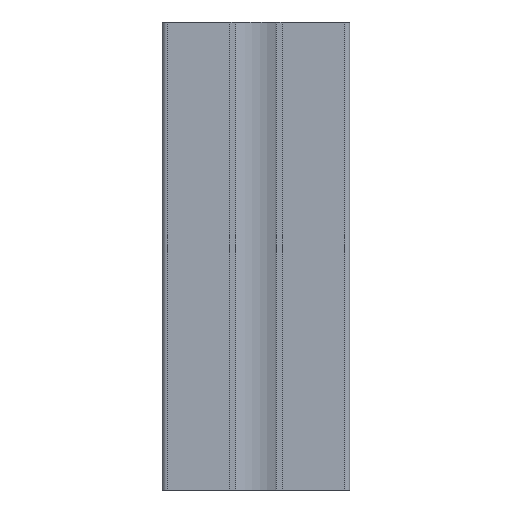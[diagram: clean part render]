
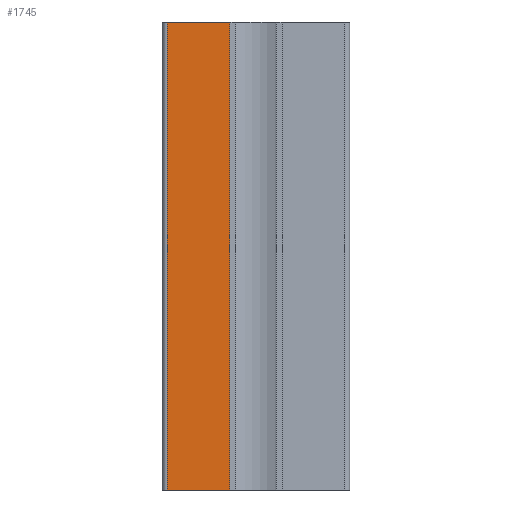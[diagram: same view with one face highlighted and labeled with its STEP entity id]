
A CAD part, front view. The second image highlights one B-rep face of the part: STEP entity #1745.
In plain terms, the highlighted planar face has unit normal (0, -1, 0).
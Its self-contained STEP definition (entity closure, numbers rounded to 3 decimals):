
#46=PLANE('',#1877);
#127=FACE_OUTER_BOUND('',#215,.T.);
#215=EDGE_LOOP('',(#1333,#1334,#1335,#1336));
#357=LINE('',#2694,#559);
#358=LINE('',#2697,#560);
#359=LINE('',#2699,#561);
#360=LINE('',#2700,#562);
#559=VECTOR('',#2199,100.);
#560=VECTOR('',#2202,13.4);
#561=VECTOR('',#2203,13.4);
#562=VECTOR('',#2204,100.);
#815=VERTEX_POINT('',#2690);
#816=VERTEX_POINT('',#2692);
#817=VERTEX_POINT('',#2696);
#818=VERTEX_POINT('',#2698);
#1031=EDGE_CURVE('',#815,#816,#357,.T.);
#1032=EDGE_CURVE('',#817,#815,#358,.T.);
#1033=EDGE_CURVE('',#818,#816,#359,.T.);
#1034=EDGE_CURVE('',#817,#818,#360,.T.);
#1333=ORIENTED_EDGE('',*,*,#1032,.T.);
#1334=ORIENTED_EDGE('',*,*,#1031,.T.);
#1335=ORIENTED_EDGE('',*,*,#1033,.F.);
#1336=ORIENTED_EDGE('',*,*,#1034,.F.);
#1745=ADVANCED_FACE('',(#127),#46,.T.);
#1877=AXIS2_PLACEMENT_3D('',#2695,#2200,#2201);
#2199=DIRECTION('',(0.,0.,1.));
#2200=DIRECTION('center_axis',(0.,-1.,0.));
#2201=DIRECTION('ref_axis',(1.,0.,0.));
#2202=DIRECTION('',(1.,0.,0.));
#2203=DIRECTION('',(1.,0.,0.));
#2204=DIRECTION('',(0.,0.,1.));
#2690=CARTESIAN_POINT('',(19.387,3.964,0.));
#2692=CARTESIAN_POINT('',(19.387,3.964,100.));
#2694=CARTESIAN_POINT('',(19.387,3.964,0.));
#2695=CARTESIAN_POINT('Origin',(5.987,3.964,0.));
#2696=CARTESIAN_POINT('',(5.987,3.964,0.));
#2697=CARTESIAN_POINT('',(5.987,3.964,0.));
#2698=CARTESIAN_POINT('',(5.987,3.964,100.));
#2699=CARTESIAN_POINT('',(5.987,3.964,100.));
#2700=CARTESIAN_POINT('',(5.987,3.964,0.));
